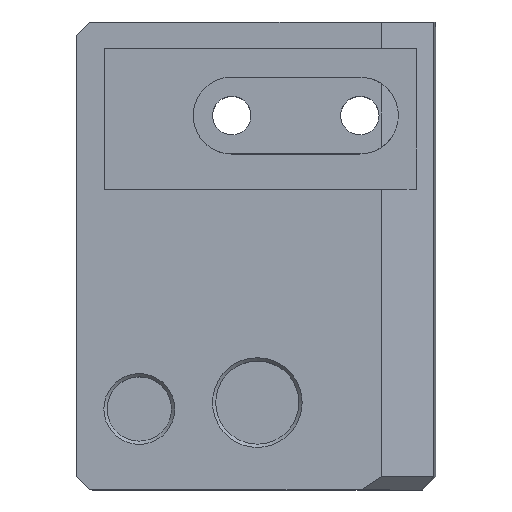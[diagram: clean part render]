
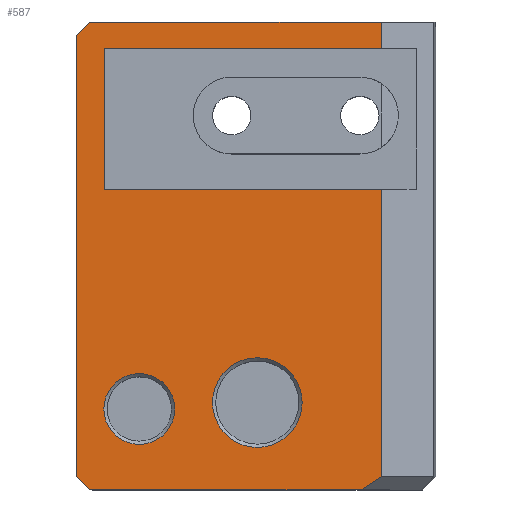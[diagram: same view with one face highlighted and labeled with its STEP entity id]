
A CAD part, top view. The second image highlights one B-rep face of the part: STEP entity #587.
In plain terms, the highlighted planar face has unit normal (0, 0, 1).
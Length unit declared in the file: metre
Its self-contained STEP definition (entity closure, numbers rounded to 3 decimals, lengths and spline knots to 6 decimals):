
#23=LINE('',#882,#81);
#24=LINE('',#885,#82);
#25=LINE('',#887,#83);
#26=LINE('',#889,#84);
#27=LINE('',#891,#85);
#28=LINE('',#893,#86);
#29=LINE('',#895,#87);
#30=LINE('',#897,#88);
#31=LINE('',#899,#89);
#32=LINE('',#901,#90);
#33=LINE('',#903,#91);
#81=VECTOR('',#706,1.);
#82=VECTOR('',#707,1.);
#83=VECTOR('',#708,1.);
#84=VECTOR('',#709,1.);
#85=VECTOR('',#710,1.);
#86=VECTOR('',#711,1.);
#87=VECTOR('',#712,1.);
#88=VECTOR('',#713,1.);
#89=VECTOR('',#714,1.);
#90=VECTOR('',#715,1.);
#91=VECTOR('',#716,1.);
#139=ORIENTED_EDGE('',*,*,#295,.T.);
#140=ORIENTED_EDGE('',*,*,#296,.T.);
#141=ORIENTED_EDGE('',*,*,#297,.F.);
#142=ORIENTED_EDGE('',*,*,#298,.T.);
#143=ORIENTED_EDGE('',*,*,#299,.T.);
#144=ORIENTED_EDGE('',*,*,#300,.T.);
#145=ORIENTED_EDGE('',*,*,#301,.T.);
#146=ORIENTED_EDGE('',*,*,#302,.T.);
#147=ORIENTED_EDGE('',*,*,#303,.T.);
#148=ORIENTED_EDGE('',*,*,#304,.F.);
#149=ORIENTED_EDGE('',*,*,#305,.T.);
#150=ORIENTED_EDGE('',*,*,#306,.F.);
#151=ORIENTED_EDGE('',*,*,#307,.T.);
#295=EDGE_CURVE('',#373,#373,#427,.F.);
#296=EDGE_CURVE('',#374,#374,#428,.F.);
#297=EDGE_CURVE('',#375,#376,#23,.T.);
#298=EDGE_CURVE('',#375,#377,#24,.T.);
#299=EDGE_CURVE('',#377,#378,#25,.T.);
#300=EDGE_CURVE('',#378,#379,#26,.T.);
#301=EDGE_CURVE('',#379,#380,#27,.T.);
#302=EDGE_CURVE('',#380,#381,#28,.T.);
#303=EDGE_CURVE('',#381,#382,#29,.T.);
#304=EDGE_CURVE('',#383,#382,#30,.T.);
#305=EDGE_CURVE('',#383,#384,#31,.F.);
#306=EDGE_CURVE('',#385,#384,#32,.T.);
#307=EDGE_CURVE('',#385,#376,#33,.T.);
#373=VERTEX_POINT('',#879);
#374=VERTEX_POINT('',#881);
#375=VERTEX_POINT('',#883);
#376=VERTEX_POINT('',#884);
#377=VERTEX_POINT('',#886);
#378=VERTEX_POINT('',#888);
#379=VERTEX_POINT('',#890);
#380=VERTEX_POINT('',#892);
#381=VERTEX_POINT('',#894);
#382=VERTEX_POINT('',#896);
#383=VERTEX_POINT('',#898);
#384=VERTEX_POINT('',#900);
#385=VERTEX_POINT('',#902);
#427=CIRCLE('',#640,0.005525);
#428=CIRCLE('',#641,0.007);
#446=EDGE_LOOP('',(#139));
#447=EDGE_LOOP('',(#140));
#448=EDGE_LOOP('',(#141,#142,#143,#144,#145,#146,#147,#148,#149,#150,#151));
#502=FACE_BOUND('',#446,.T.);
#503=FACE_BOUND('',#447,.T.);
#504=FACE_BOUND('',#448,.T.);
#558=PLANE('',#639);
#587=ADVANCED_FACE('',(#502,#503,#504),#558,.T.);
#639=AXIS2_PLACEMENT_3D('',#877,#700,#701);
#640=AXIS2_PLACEMENT_3D('',#878,#702,#703);
#641=AXIS2_PLACEMENT_3D('',#880,#704,#705);
#700=DIRECTION('',(0.,0.,1.));
#701=DIRECTION('',(1.,0.,0.));
#702=DIRECTION('',(0.,0.,1.));
#703=DIRECTION('',(1.,0.,0.));
#704=DIRECTION('',(0.,0.,1.));
#705=DIRECTION('',(1.,0.,0.));
#706=DIRECTION('',(-1.,0.,0.));
#707=DIRECTION('',(0.834,0.552,0.));
#708=DIRECTION('',(0.,1.,0.));
#709=DIRECTION('',(-1.,0.,0.));
#710=DIRECTION('',(0.,1.,0.));
#711=DIRECTION('',(1.,0.,0.));
#712=DIRECTION('',(0.,1.,0.));
#713=DIRECTION('',(1.,0.,0.));
#714=DIRECTION('',(0.707,0.707,0.));
#715=DIRECTION('',(0.,1.,0.));
#716=DIRECTION('',(0.707,-0.707,0.));
#877=CARTESIAN_POINT('',(-0.028912,-0.0323,0.0164));
#878=CARTESIAN_POINT('',(-0.019837,-0.01718,0.0164));
#879=CARTESIAN_POINT('',(-0.014312,-0.01718,0.0164));
#880=CARTESIAN_POINT('',(-0.001412,-0.01618,0.0164));
#881=CARTESIAN_POINT('',(0.005588,-0.01618,0.0164));
#882=CARTESIAN_POINT('',(-0.028912,-0.0298,0.0164));
#883=CARTESIAN_POINT('',(0.014803,-0.0298,0.0164));
#884=CARTESIAN_POINT('',(-0.027608,-0.0298,0.0164));
#885=CARTESIAN_POINT('',(-0.016763,-0.050673,0.0164));
#886=CARTESIAN_POINT('',(0.017938,-0.027727,0.0164));
#887=CARTESIAN_POINT('',(0.017938,-0.0323,0.0164));
#888=CARTESIAN_POINT('',(0.017938,0.01712,0.0164));
#889=CARTESIAN_POINT('',(-0.002762,0.01712,0.0164));
#890=CARTESIAN_POINT('',(-0.025312,0.01712,0.0164));
#891=CARTESIAN_POINT('',(-0.025312,-0.00759,0.0164));
#892=CARTESIAN_POINT('',(-0.025312,0.03912,0.0164));
#893=CARTESIAN_POINT('',(-0.027112,0.03912,0.0164));
#894=CARTESIAN_POINT('',(0.017938,0.03912,0.0164));
#895=CARTESIAN_POINT('',(0.017938,-0.0323,0.0164));
#896=CARTESIAN_POINT('',(0.017938,0.04322,0.0164));
#897=CARTESIAN_POINT('',(-0.001231,0.04322,0.0164));
#898=CARTESIAN_POINT('',(-0.027608,0.04322,0.0164));
#899=CARTESIAN_POINT('',(-0.066021,0.004832,0.0164));
#900=CARTESIAN_POINT('',(-0.029682,0.041147,0.0164));
#901=CARTESIAN_POINT('',(-0.029682,-0.0323,0.0164));
#902=CARTESIAN_POINT('',(-0.029682,-0.027727,0.0164));
#903=CARTESIAN_POINT('',(-0.027011,-0.030397,0.0164));
